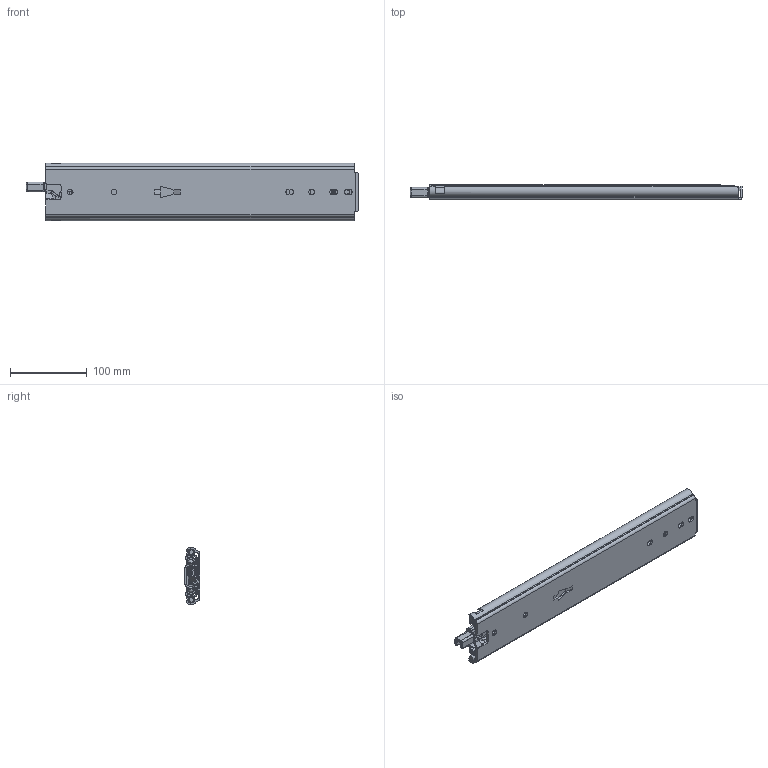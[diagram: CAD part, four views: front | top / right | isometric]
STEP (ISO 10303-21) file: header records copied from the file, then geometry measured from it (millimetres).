
FILE_DESCRIPTION((''),'2;1');
FILE_NAME('DG-76-3S-16YOU_ASM','2023-05-09T',('jishu015'),(''),'PRO/ENGINEER BY PARAMETRIC TECHNOLOGY CORPORATION, 2010280','PRO/ENGINEER BY PARAMETRIC TECHNOLOGY CORPORATION, 2010280','');
FILE_SCHEMA(('CONFIG_CONTROL_DESIGN'));
Length unit declared in the file: millimetre
Products named in the file (29): KP-76-04WAIKE-1816__; 1076-WAIKEZIDANJIAO16__; WAIK16___ASM; 1076XIAOZHUTIAO-22516__; 16__; 1076XIAOZHUTIAO-17516___ASM; KP-76-04ZHONGGUI1816__; 76CHANGGUIZHONGGUIJIAO16__; 3X6WODIN16__; ZHONGGUIBAIKOU16__; PJ-76-30_; PJ-76-03_; 76-XIAOZHUJIA-11_; GANGZHU-XIAO_; ZHUJIA-XIAO__ASM; ZHONGGUI6___ASM; KP-76-04NEIGUI1816__; PJ-76-31_; DAOGPIAN16__; 1053-3SBANJ01_; JIAO-11_; 76XINSUOKOU_; PJ-338_; PJ-356_; PJ-357_; PJ-336_; M4X4_; NEIGUI16___ASM; DG-76-3S-16YOU_ASM
Assembly tree (46 placements, depth 4):
  DG-76-3S-16YOU_ASM
    WAIK16___ASM
      KP-76-04WAIKE-1816__
      1076-WAIKEZIDANJIAO16__  x2
    1076XIAOZHUTIAO-17516___ASM  x2
      1076XIAOZHUTIAO-22516__
      16__
    ZHONGGUI6___ASM
      KP-76-04ZHONGGUI1816__
      76CHANGGUIZHONGGUIJIAO16__
      3X6WODIN16__
      ZHONGGUIBAIKOU16__
      PJ-76-30_
      PJ-76-03_
      ZHUJIA-XIAO__ASM
        76-XIAOZHUJIA-11_
        GANGZHU-XIAO_  x12
    NEIGUI16___ASM
      KP-76-04NEIGUI1816__
      PJ-76-31_
      DAOGPIAN16__
      1053-3SBANJ01_
      JIAO-11_
      76XINSUOKOU_
      PJ-338_
      PJ-356_
      PJ-357_
      PJ-336_
      M4X4_
Bounding box: 432.02 x 20.7 x 75.3 mm (x, y, z)
Volume: 264353.9 mm3; surface area: 254918.6 mm2
Topology: 48 solids, 48 shells, 1623 faces, 4781 edges, 3081 vertices
Faces by surface type: plane 747, cylinder 606, bspline 100, torus 64, sphere 55, cone 28, extrusion 23
Entity records: 58568 total; most frequent: CARTESIAN_POINT 18539, ORIENTED_EDGE 8758, DIRECTION 7834, EDGE_CURVE 4379, VERTEX_POINT 2869, AXIS2_PLACEMENT_3D 2744, VECTOR 2346, LINE 2323
